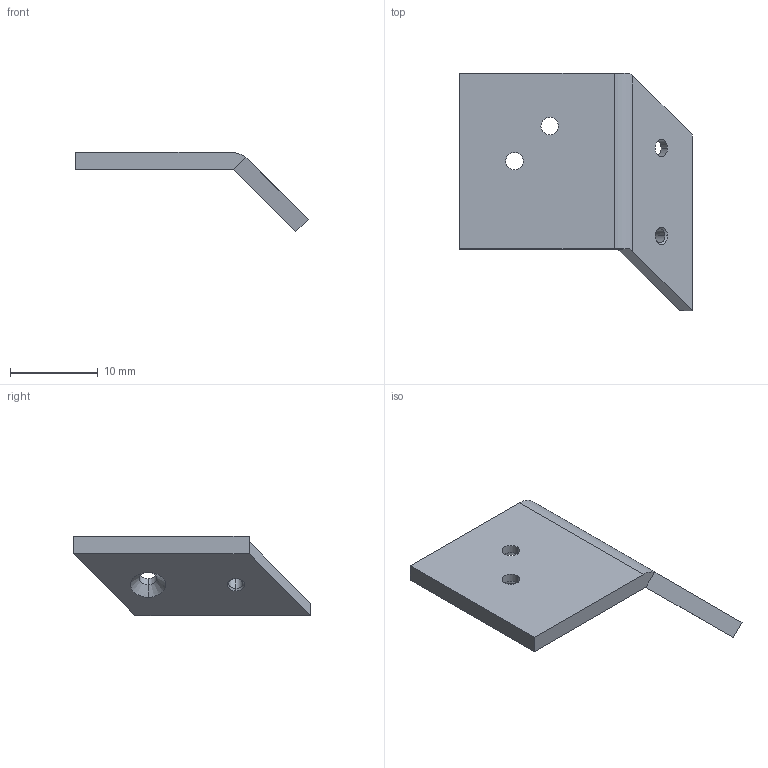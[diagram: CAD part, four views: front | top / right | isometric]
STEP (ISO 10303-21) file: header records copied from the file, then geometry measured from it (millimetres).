
FILE_DESCRIPTION (( 'STEP AP214' ), '1' );
FILE_NAME ('SC62.STEP', '2016-02-26T17:35:30', ( '' ), ( '' ), 'SwSTEP 2.0', 'SolidWorks 2012', '' );
FILE_SCHEMA (( 'AUTOMOTIVE_DESIGN' ));
Length unit declared in the file: millimetre
Products named in the file (1): SC62
Bounding box: 26.49 x 27 x 9.07 mm (x, y, z)
Volume: 1113.6 mm3; surface area: 1371 mm2
Topology: 1 solids, 1 shells, 29 faces, 69 edges, 42 vertices
Faces by surface type: cone 10, plane 10, cylinder 9
Entity records: 885 total; most frequent: DIRECTION 155, CARTESIAN_POINT 147, ORIENTED_EDGE 138, EDGE_CURVE 69, AXIS2_PLACEMENT_3D 58, VERTEX_POINT 42, VECTOR 39, LINE 39
